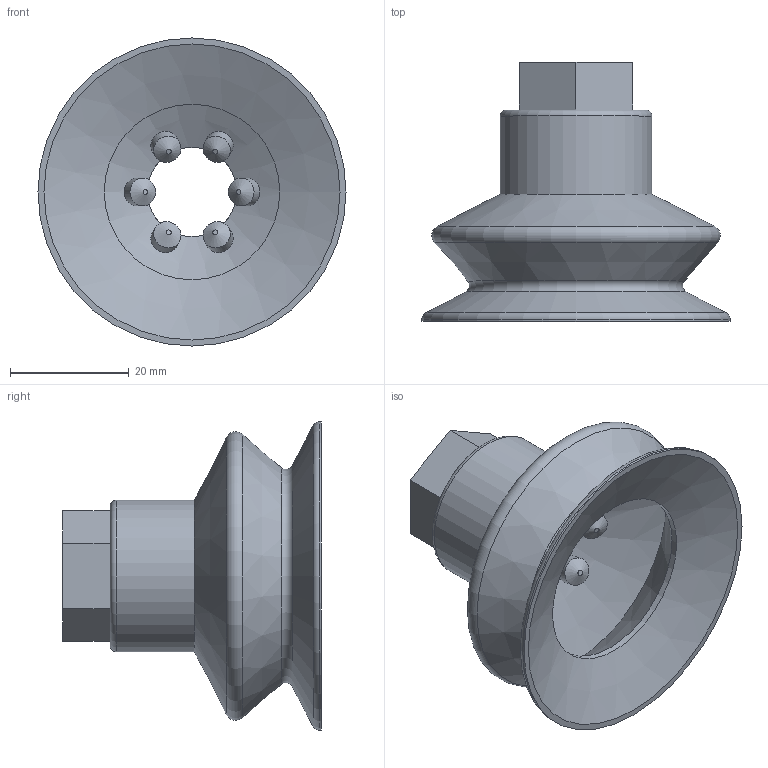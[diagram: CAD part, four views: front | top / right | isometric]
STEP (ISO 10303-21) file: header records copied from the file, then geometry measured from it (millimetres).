
FILE_DESCRIPTION (( 'STEP AP214' ), '1' );
FILE_NAME ('15B.051.101.STEP', '2026-04-21T14:41:17', ( '' ), ( '' ), 'SwSTEP 2.0', 'SolidWorks 2025', '' );
FILE_SCHEMA (( 'AUTOMOTIVE_DESIGN' ));
Length unit declared in the file: millimetre
Products named in the file (1): 15B.051.101
Bounding box: 51.8 x 43.5 x 51.8 mm (x, y, z)
Volume: 15671 mm3; surface area: 12136.4 mm2
Topology: 1 solids, 1 shells, 48 faces, 106 edges, 61 vertices
Faces by surface type: plane 21, cone 12, cylinder 11, torus 4
Full cylindrical faces by diameter (mm): 4.7 x6, 15 x2, 25.5 x1, 29.5 x1, 51.8 x1
Entity records: 1661 total; most frequent: CARTESIAN_POINT 753, DIRECTION 196, ORIENTED_EDGE 140, AXIS2_PLACEMENT_3D 89, EDGE_LOOP 78, EDGE_CURVE 70, FACE_OUTER_BOUND 63, VERTEX_POINT 52
